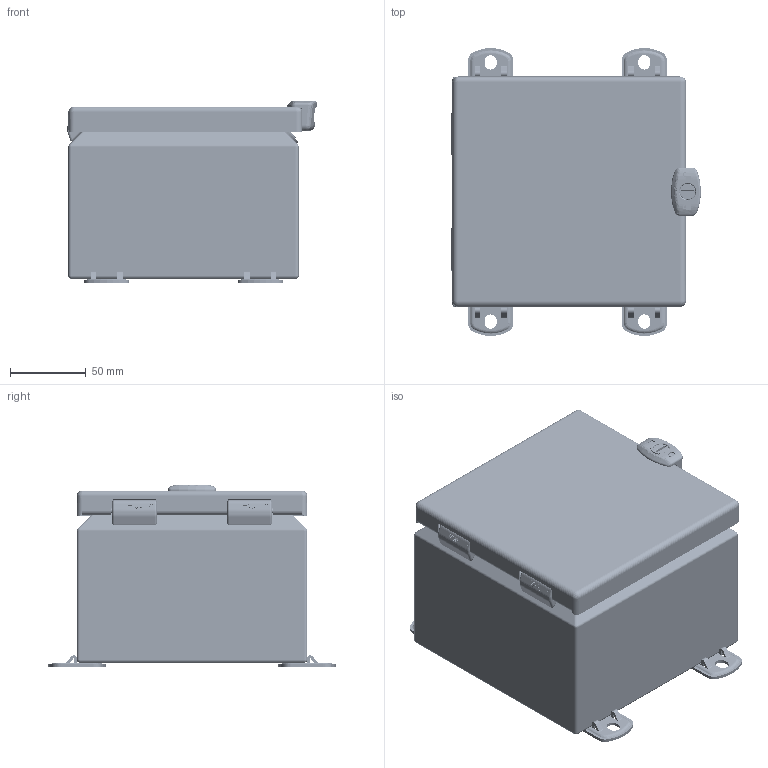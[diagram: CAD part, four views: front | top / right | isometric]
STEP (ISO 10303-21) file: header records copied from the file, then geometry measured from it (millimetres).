
FILE_DESCRIPTION(/* description */ ('5412ESSMCH 6" x 6" x 4" Assembly'),/* implementation_level */ '2;1');
FILE_NAME(/* name */ 'C:\Vault_Workspace\Inventor_Dwg\BoxCad\Result\5412ESSMCH0606046\e-mail\3D\5412ESSMCH0606046.stp',/* time_stamp */ '2023-03-10T15:41:38-05:00',/* author */ ('BoxCad'),/* organization */ (''),/* preprocessor_version */ 'ST-DEVELOPER v18.1',/* originating_system */ 'Autodesk Inventor 2020',/* authorisation */ '');
FILE_SCHEMA (('AUTOMOTIVE_DESIGN { 1 0 10303 214 3 1 1 }'));
Products named in the file (41): 5412ESSMCH0606046; 5412ESSMCH0606046B; 5412ESSMCH0606046B-P; STK-Q-08500; STK-A-70469-1; STK-Q-70469-P; STK-Q-70469-S; STK-Q-70469-O; STK-Q-08100-1; 880SP0606G; 880SP0606G-P; 5412ESSMCH0606046AK; STK-Q-71350; STK-Q-10251; STK-Q-10251-A; STK-Q-10251-B; STK-Q-03075; STK-Q-07260; STK-Q-03200; 5412ESSMCH0606046C; 5412ESSMCH0606046C-P; 5412ESSMCH0606046G; STK-A-33038-1; STK-A-33038-2; STK-Q-33038-B; STK-Q-33038-S; STK-Q-33038-G; STANDOFF_SS_M6 x 10mm; STK-S-00100; STK-A-880SCQ3MS-1; STK-Q-79961-A; STK-Q-79961-B; STK-Q-70820; STK-Q-08100-3; STK-Q-08100-4; STK-Q-08100-A; STK-Q-08100-B; STK-Q-10249-3; STK-Q-10249-4; STK-Q-10249-A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
Assembly tree (68 placements, depth 4):
  5412ESSMCH0606046
    5412ESSMCH0606046B
      5412ESSMCH0606046B-P
      STK-Q-08500  x4
      STANDOFF_SS_M6 x 10mm
      STK-A-70469-1
        STK-Q-70469-P
        STK-Q-70469-S
        STK-Q-70469-O
      STK-Q-08100-1
        STK-Q-08100-A
        STK-Q-08100-B
    880SP0606G
      880SP0606G-P
    5412ESSMCH0606046AK
      STK-Q-71350  x4
      STK-Q-03075  x4
      STK-Q-10251  x4
        STK-Q-10251-A
        STK-Q-10251-B
      STK-Q-07260  x4
      STK-Q-03200  x4
    5412ESSMCH0606046C
      5412ESSMCH0606046C-P
      5412ESSMCH0606046G
      STK-A-33038-1
        STK-Q-33038-B
        STK-Q-33038-S
        STK-Q-33038-G
      STK-A-33038-2
        STK-Q-33038-B
        STK-Q-33038-S
        STK-Q-33038-G
      STANDOFF_SS_M6 x 10mm
      STK-S-00100
      STK-A-880SCQ3MS-1
        STK-Q-79961-A
        STK-Q-79961-B
        STK-Q-70820
    STK-Q-08100-3
      STK-Q-08100-A
      STK-Q-08100-B
    STK-Q-08100-4
      STK-Q-08100-A
      STK-Q-08100-B
    STK-Q-10249-3
      STK-Q-10249-A
      STK-Q-10249-B
    STK-Q-10249-4
      STK-Q-10249-A
      STK-Q-10249-B
Bounding box: 165.07 x 190.4 x 120.9 mm (x, y, z)
Volume: 244220.5 mm3; surface area: 345510.9 mm2
Topology: 59 solids, 59 shells, 7066 faces, 18045 edges, 11052 vertices
Faces by surface type: plane 3312, cylinder 1491, bspline 1488, torus 426, cone 195, sphere 154
Full cylindrical faces by diameter (mm): 0.762 x6, 0.9 x6, 3 x2, 3.175 x2, 3.25 x2, 4.2 x3, 4.4 x9, 4.45 x2, 4.9 x23, 5 x4, 5.1 x34, 5.9 x84, 6 x6, 6.1 x6, 7.62 x3, 8.128 x4, 8.382 x1, 8.6 x1, 10 x6, 10.465 x1, 10.7 x1, 13 x4
Entity records: 139700 total; most frequent: CARTESIAN_POINT 51548, ORIENTED_EDGE 19236, DIRECTION 16062, EDGE_CURVE 9618, VERTEX_POINT 5977, AXIS2_PLACEMENT_3D 5408, LINE 5246, VECTOR 5246
